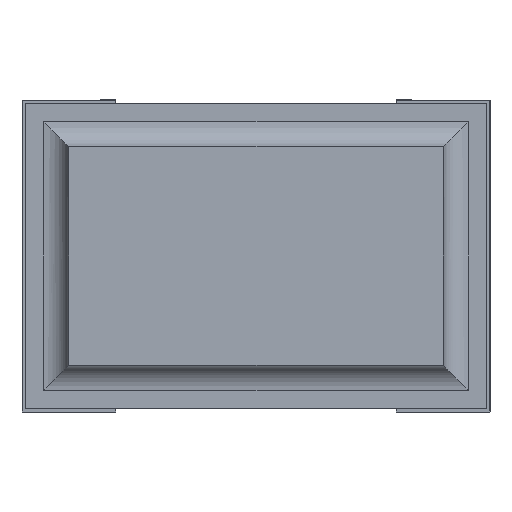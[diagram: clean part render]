
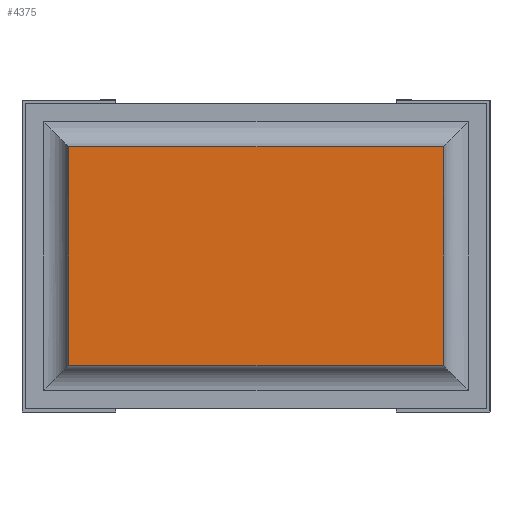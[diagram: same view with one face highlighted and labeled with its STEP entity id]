
A CAD part, front view. The second image highlights one B-rep face of the part: STEP entity #4375.
In plain terms, the highlighted planar face has unit normal (0, -1, 0).
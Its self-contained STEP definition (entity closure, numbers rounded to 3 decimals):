
#104=PLANE('',#4660);
#301=FACE_OUTER_BOUND('',#546,.T.);
#546=EDGE_LOOP('',(#3101,#3102,#3103,#3104));
#817=LINE('',#6316,#1379);
#820=LINE('',#6322,#1382);
#821=LINE('',#6325,#1383);
#822=LINE('',#6326,#1384);
#1379=VECTOR('',#5080,10.);
#1382=VECTOR('',#5085,10.);
#1383=VECTOR('',#5088,10.);
#1384=VECTOR('',#5089,10.);
#1963=VERTEX_POINT('',#6312);
#1964=VERTEX_POINT('',#6314);
#1966=VERTEX_POINT('',#6320);
#1967=VERTEX_POINT('',#6324);
#2407=EDGE_CURVE('',#1963,#1964,#817,.T.);
#2410=EDGE_CURVE('',#1966,#1964,#820,.T.);
#2411=EDGE_CURVE('',#1967,#1966,#821,.T.);
#2412=EDGE_CURVE('',#1963,#1967,#822,.T.);
#3101=ORIENTED_EDGE('',*,*,#2410,.F.);
#3102=ORIENTED_EDGE('',*,*,#2411,.F.);
#3103=ORIENTED_EDGE('',*,*,#2412,.F.);
#3104=ORIENTED_EDGE('',*,*,#2407,.T.);
#4375=ADVANCED_FACE('',(#301),#104,.T.);
#4660=AXIS2_PLACEMENT_3D('',#6323,#5086,#5087);
#5080=DIRECTION('',(0.,0.,-1.));
#5085=DIRECTION('',(-1.,0.,0.));
#5086=DIRECTION('center_axis',(0.,-1.,0.));
#5087=DIRECTION('ref_axis',(0.,0.,-1.));
#5088=DIRECTION('',(0.,0.,-1.));
#5089=DIRECTION('',(1.,0.,0.));
#6312=CARTESIAN_POINT('',(0.075,0.,0.425));
#6314=CARTESIAN_POINT('',(0.075,0.,0.075));
#6316=CARTESIAN_POINT('',(0.075,0.,0.425));
#6320=CARTESIAN_POINT('',(0.675,0.,0.075));
#6322=CARTESIAN_POINT('',(0.675,0.,0.075));
#6323=CARTESIAN_POINT('Origin',(0.676,0.,0.25));
#6324=CARTESIAN_POINT('',(0.675,0.,0.425));
#6325=CARTESIAN_POINT('',(0.675,0.,0.425));
#6326=CARTESIAN_POINT('',(0.075,0.,0.425));
